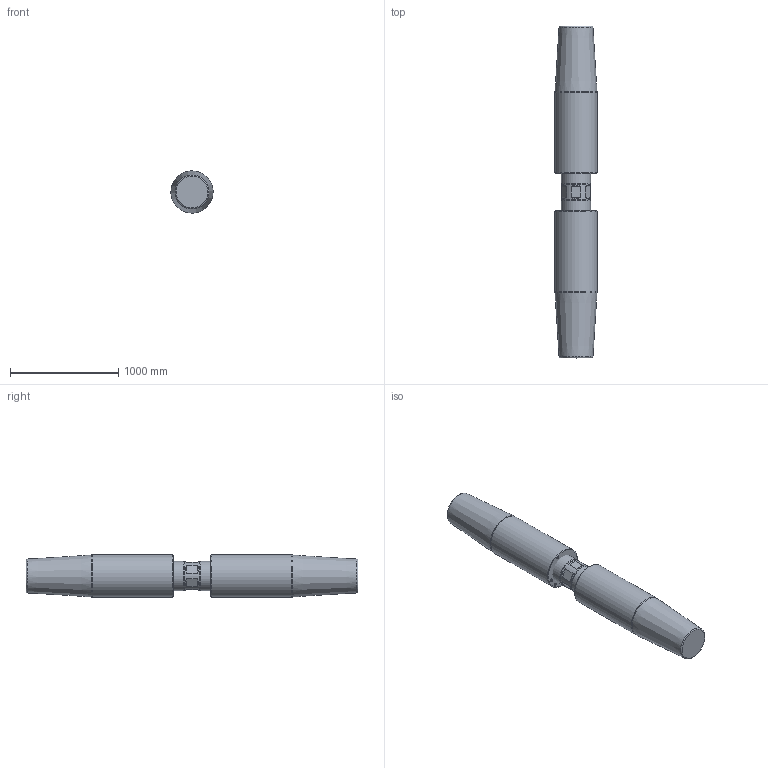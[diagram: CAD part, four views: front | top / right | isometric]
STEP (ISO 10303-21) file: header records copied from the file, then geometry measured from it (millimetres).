
FILE_DESCRIPTION(/* description */ (''),/* implementation_level */ '2;1');
FILE_NAME(/* name */ 'D:\Clienti\Redaelli (inventor)\CYA\STEP\Arrangement\CYA136 52 061 2.stp',/* time_stamp */ '2021-05-09T10:46:49+02:00',/* author */ ('fabri'),/* organization */ (''),/* preprocessor_version */ 'ST-DEVELOPER v16.13',/* originating_system */ 'Autodesk Inventor 2018',/* authorisation */ '');
FILE_SCHEMA (('AUTOMOTIVE_DESIGN { 1 0 10303 214 3 1 1 }'));
Length unit declared in the file: millimetre
Products named in the file (4): CYA012-54-062-0; TBF012-12-012-1; TBF012-13-012-0; TBF012-13-012-0_1
Assembly tree (3 placements, depth 2):
  CYA012-54-062-0
    TBF012-12-012-1
    TBF012-13-012-0
    TBF012-13-012-0_1
Bounding box: 389.77 x 3072 x 389.77 mm (x, y, z)
Volume: 373106766.4 mm3; surface area: 4836265.1 mm2
Topology: 3 solids, 3 shells, 538 faces, 1461 edges, 972 vertices
Faces by surface type: bspline 273, plane 222, cylinder 25, cone 14, torus 4
Full cylindrical faces by diameter (mm): 17.294 x2, 23.752 x6, 264 x1, 270 x2, 390 x2
Entity records: 18607 total; most frequent: CARTESIAN_POINT 6966, ORIENTED_EDGE 2844, DIRECTION 1438, EDGE_CURVE 1422, VERTEX_POINT 964, LINE 814, VECTOR 814, EDGE_LOOP 612
